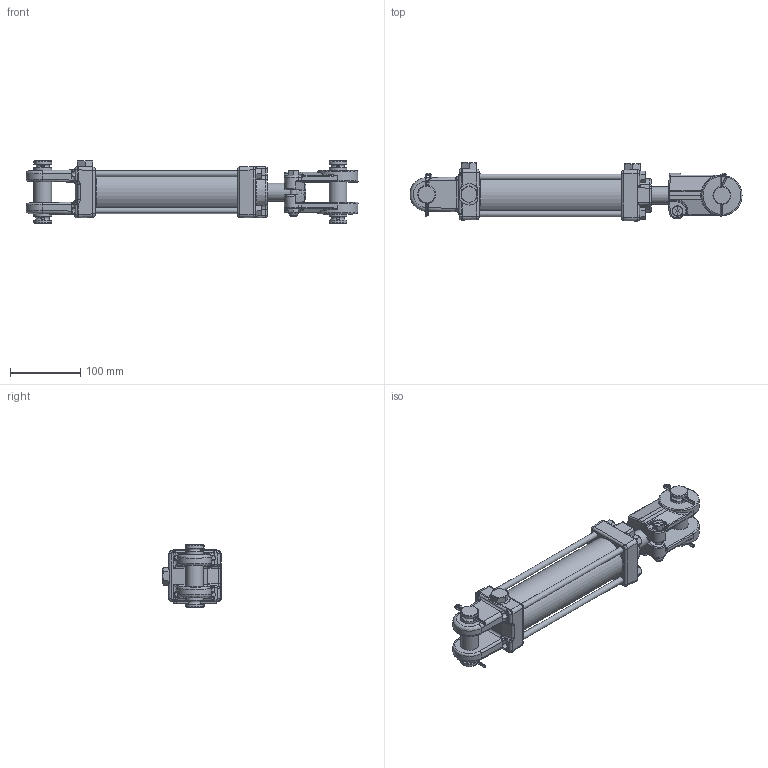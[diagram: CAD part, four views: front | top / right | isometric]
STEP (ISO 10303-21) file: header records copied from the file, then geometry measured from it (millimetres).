
FILE_DESCRIPTION((''),'2;1');
FILE_NAME('C:\Vault\Workspace\Vest\SAE-8406.stp','2010-05-12T10:32:14',('kneifld'),(''),'Autodesk Inventor 2010','Autodesk Inventor 2010','');
FILE_SCHEMA(('AUTOMOTIVE_DESIGN { 1 0 10303 214 1 1 1 1 }'));
Length unit declared in the file: inch
Products named in the file (24): SAE-8406; 051108063A; 1411005SFV; 0811ABASFV; 010400007; 100000425V; 100000424V; 170002104V; 220000203V; 071100004V; 220000208V; 200300040V; 190400001V; 220001504V; 170103101; 220000103; 240000224V; 240061224V; 240063326V; 240000326V; 240000018V; 240037002V; 250001214V
Assembly tree (35 placements, depth 3):
  SAE-8406
    051108063A
    1411005SFV
    0811ABASFV
    010400007
    100000425V
      100000424V
      170002104V
      220000203V
    071100004V
    220000208V
    200300040V  x3
    190400001V  x2
    220001504V  x4
    170103101  x4
      170103101
      220000103
    240000224V  x2
    240061224V  x2
    240063326V  x2
    240000326V
    240000018V
    240037002V
    250001214V
Bounding box: 473.07 x 82.96 x 89.4 mm (x, y, z)
Volume: 1061931.9 mm3; surface area: 296888.8 mm2
Topology: 36 solids, 36 shells, 1000 faces, 2311 edges, 1380 vertices
Faces by surface type: plane 312, bspline 268, cylinder 223, cone 150, torus 26, sphere 21
Full cylindrical faces by diameter (mm): 1.143 x2, 5.159 x4, 8.458 x4, 9.493 x1, 10.319 x2, 16.764 x3, 18.999 x1, 19.05 x3, 19.126 x1, 21.59 x1, 25.4 x7, 25.425 x1, 25.476 x2, 25.781 x4, 28.397 x1, 28.423 x1, 30.175 x1, 31.115 x1, 31.725 x1, 31.75 x2, 34.925 x1, 41.402 x1, 44.45 x2, 44.958 x2, 45.161 x2, 50.292 x2, 50.444 x2, 50.571 x6, 50.8 x1, 60.325 x1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
Entity records: 28406 total; most frequent: CARTESIAN_POINT 11151, ORIENTED_EDGE 3390, DIRECTION 3202, EDGE_CURVE 1695, AXIS2_PLACEMENT_3D 1313, VERTEX_POINT 1074, EDGE_LOOP 989, FACE_OUTER_BOUND 793
